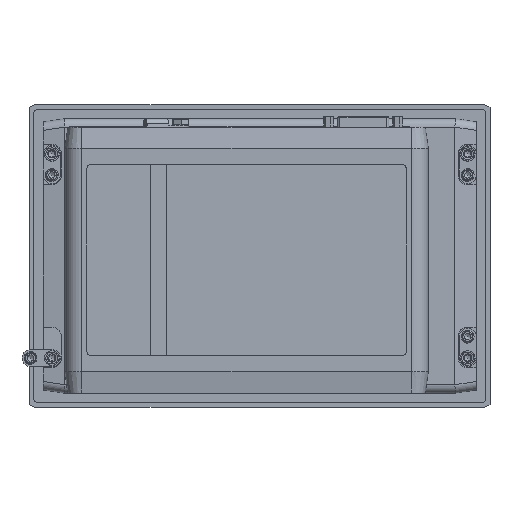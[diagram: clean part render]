
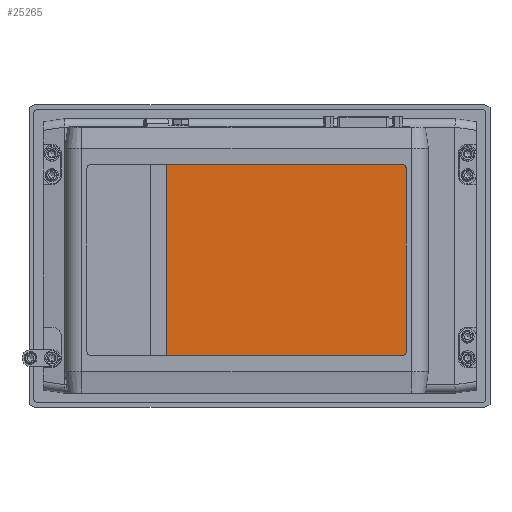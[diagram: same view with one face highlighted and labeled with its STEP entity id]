
A CAD part, top view. The second image highlights one B-rep face of the part: STEP entity #25265.
In plain terms, the highlighted planar face has unit normal (0, 0, 1).
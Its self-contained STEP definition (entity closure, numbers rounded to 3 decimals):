
#1990=CIRCLE('',#27106,2.);
#1991=CIRCLE('',#27107,2.);
#3260=FACE_OUTER_BOUND('',#4845,.T.);
#4845=EDGE_LOOP('',(#19466,#19467,#19468,#19469,#19470,#19471));
#6500=LINE('',#41934,#9030);
#6508=LINE('',#41950,#9038);
#6509=LINE('',#41954,#9039);
#6510=LINE('',#41957,#9040);
#9030=VECTOR('',#31020,90.);
#9038=VECTOR('',#31034,110.5);
#9039=VECTOR('',#31037,86.);
#9040=VECTOR('',#31040,110.5);
#11741=VERTEX_POINT('',#41931);
#11742=VERTEX_POINT('',#41933);
#11747=VERTEX_POINT('',#41949);
#11748=VERTEX_POINT('',#41951);
#11749=VERTEX_POINT('',#41953);
#11750=VERTEX_POINT('',#41955);
#14535=EDGE_CURVE('',#11742,#11741,#6500,.T.);
#14543=EDGE_CURVE('',#11747,#11741,#6508,.T.);
#14544=EDGE_CURVE('',#11748,#11747,#1990,.T.);
#14545=EDGE_CURVE('',#11749,#11748,#6509,.T.);
#14546=EDGE_CURVE('',#11750,#11749,#1991,.T.);
#14547=EDGE_CURVE('',#11742,#11750,#6510,.T.);
#19466=ORIENTED_EDGE('',*,*,#14535,.T.);
#19467=ORIENTED_EDGE('',*,*,#14543,.F.);
#19468=ORIENTED_EDGE('',*,*,#14544,.F.);
#19469=ORIENTED_EDGE('',*,*,#14545,.F.);
#19470=ORIENTED_EDGE('',*,*,#14546,.F.);
#19471=ORIENTED_EDGE('',*,*,#14547,.F.);
#23991=PLANE('',#27105);
#25265=ADVANCED_FACE('',(#3260),#23991,.T.);
#27105=AXIS2_PLACEMENT_3D('',#41948,#31032,#31033);
#27106=AXIS2_PLACEMENT_3D('',#41952,#31035,#31036);
#27107=AXIS2_PLACEMENT_3D('',#41956,#31038,#31039);
#31020=DIRECTION('',(0.,-1.,0.));
#31032=DIRECTION('center_axis',(0.,0.,
1.));
#31033=DIRECTION('ref_axis',(-1.,0.,0.));
#31034=DIRECTION('',(-1.,0.,0.));
#31035=DIRECTION('center_axis',(0.,0.,
-1.));
#31036=DIRECTION('ref_axis',(0.707,-0.707,0.));
#31037=DIRECTION('',(0.,-1.,0.));
#31038=DIRECTION('center_axis',(0.,0.,
-1.));
#31039=DIRECTION('ref_axis',(0.707,0.707,0.));
#31040=DIRECTION('',(1.,0.,0.));
#41931=CARTESIAN_POINT('',(-34.2,-47.,179.602));
#41933=CARTESIAN_POINT('',(-34.2,43.,179.602));
#41934=CARTESIAN_POINT('',(-34.2,43.,179.602));
#41948=CARTESIAN_POINT('Origin',(3.3,-2.,179.602));
#41949=CARTESIAN_POINT('',(76.3,-47.,179.602));
#41950=CARTESIAN_POINT('',(76.3,-47.,179.602));
#41951=CARTESIAN_POINT('',(78.3,-45.,179.602));
#41952=CARTESIAN_POINT('Origin',(76.3,-45.,179.602));
#41953=CARTESIAN_POINT('',(78.3,41.,179.602));
#41954=CARTESIAN_POINT('',(78.3,41.,179.602));
#41955=CARTESIAN_POINT('',(76.3,43.,179.602));
#41956=CARTESIAN_POINT('Origin',(76.3,41.,179.602));
#41957=CARTESIAN_POINT('',(-34.2,43.,179.602));
